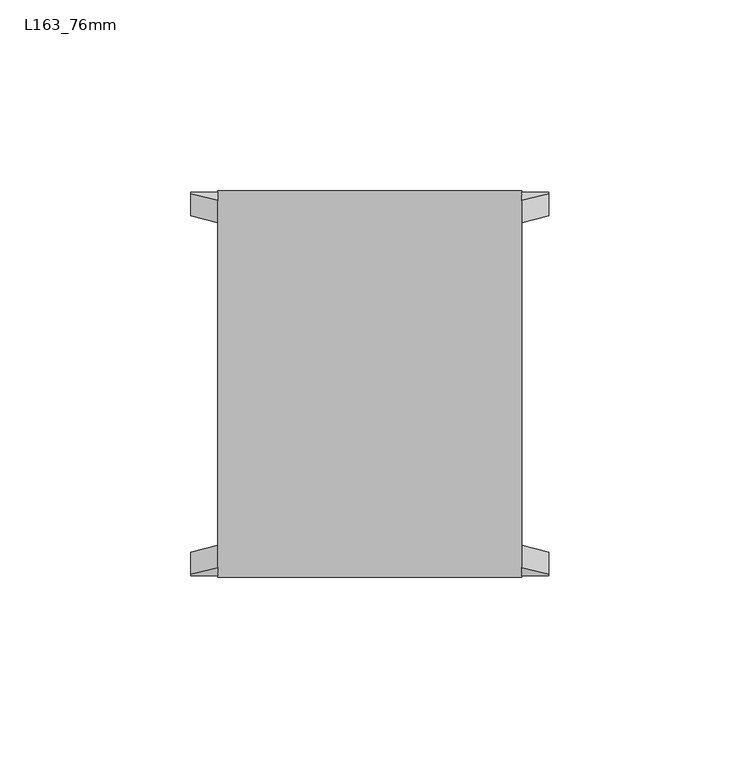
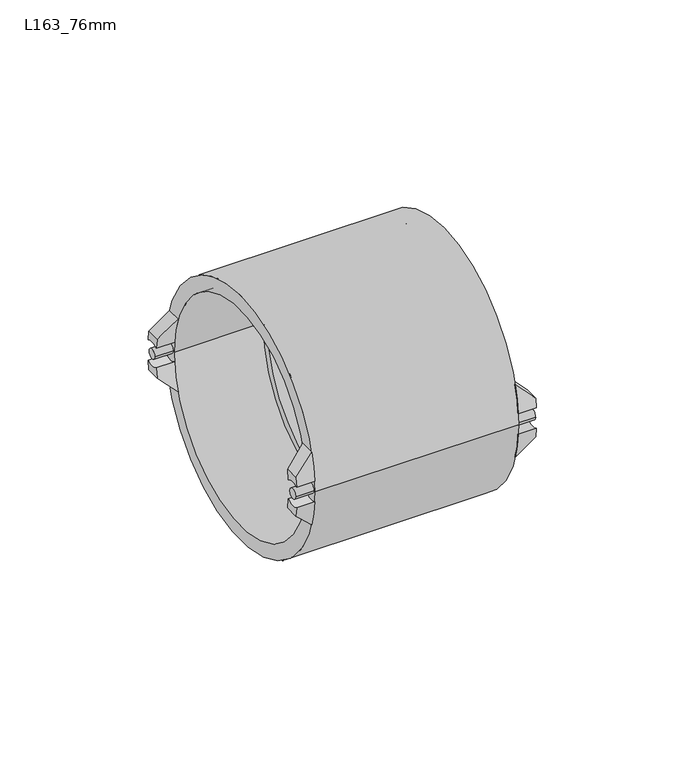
"""IFC4 building model written with IfcOpenShell, lengths in millimetres: pipe fitting geometry, Durapipe_PipeFitting_VulcatheneEnfusion_Coupling_L16 : L163_76mm."""

from ifc_helpers import new_model, si_unit, point, frame, frame_2d, origin, place, context, project, spatial, polyline, circle_curve, ellipse_curve, trimmed, segment, composite_curve, outline, extrude, source, transform, mapped, element, save
from ifc_brep_helpers import plane_surface, cylinder_surface, revolved_surface, advanced_brep


def l163_76mm_98f3493b(model_context):
    return source(origin(), model_context, "Body", "SolidModel", [
        advanced_brep(
        [(-46.9, -44.669937, 4.0148754), (-46.9, -50.269937, 4.25863), (-46.9, -49.8212696, 7.94), (-46.9, -44.1415779, 7.94), (-39.8, -48.1684804, 15.0), (-39.8, -50.269937, 4.25863), (-39.8, -44.669937, 4.0148754), (-39.8, -42.2672746, 15.0)],
        [
            (0, 1, circle_curve(frame((-46.9, -47.65, 0.0), z_axis=(1.0, 0.0, 0.0), x_axis=(0.0, 1.0, 0.0)), 5.0)),
            (1, 2, circle_curve(frame((-46.9, 0.0, 0.0), z_axis=(-1.0, 0.0, 0.0), x_axis=(0.0, 1.0, 0.0)), 50.45)),
            (2, 3),
            (3, 0, circle_curve(frame((-46.9, 0.0, 0.0), z_axis=(1.0, 0.0, 0.0), x_axis=(0.0, 1.0, 0.0)), 44.85)),
            (4, 5, circle_curve(frame((-39.8, 0.0, 0.0), z_axis=(1.0, 0.0, 0.0), x_axis=(0.0, 1.0, 0.0)), 50.45)),
            (5, 6, circle_curve(frame((-39.8, -47.65, 0.0), z_axis=(-1.0, 0.0, 0.0), x_axis=(0.0, 1.0, 0.0)), 5.0)),
            (6, 7, circle_curve(frame((-39.8, 0.0, 0.0), z_axis=(-1.0, 0.0, 0.0), x_axis=(0.0, 1.0, 0.0)), 44.85)),
            (7, 4),
            (6, 0),
            (3, 7, ellipse_curve(frame((-54.8849858, 0.0, 0.0), z_axis=(-0.7051064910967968, 0.0, 0.7091014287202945), x_axis=(0.7091014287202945, 0.0, 0.7051064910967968)), 63.6074133, 44.85)),
            (4, 2, ellipse_curve(frame((-54.8849858, 0.0, 0.0), z_axis=(0.7051064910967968, 0.0, -0.7091014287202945), x_axis=(-0.7091014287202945, 0.0, -0.7051064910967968)), 71.5494761, 50.45)),
            (1, 5),
        ],
        [
            plane_surface(frame((-46.9, -48.1684804, 15.0), z_axis=(-1.0, 0.0, 0.0), x_axis=(0.0, 1.0, 0.0))),
            plane_surface(frame((-39.8, -48.1684804, 15.0), z_axis=(1.0, 0.0, 0.0), x_axis=(0.0, -1.0, 0.0))),
            revolved_surface(polyline([(-9.780878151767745, 44.85, 0.0), (-99.98909344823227, 44.85, 0.0)]), (-39.8, 0.0, 0.0), (1.0, 0.0, 0.0)),
            cylinder_surface(frame((-39.8, 0.0, 0.0), z_axis=(-1.0, 0.0, 0.0), x_axis=(0.0, 1.0, 0.0)), 50.45),
            revolved_surface(polyline([(-46.9, -42.65, 0.0), (-39.8, -42.65, 0.0)]), (-39.8, -47.65, 0.0), (-1.0, 0.0, 0.0)),
            plane_surface(frame((-39.8, 50.45, 15.0), z_axis=(-0.7051064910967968, 0.0, 0.7091014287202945), x_axis=(0.0, -1.0, 0.0))),
        ],
        [
            (0, [[1, 2, 3, 4]]),
            (1, [[5, 6, 7, 8]]),
            (2, [[-7, 9, -4, 10]]),
            (3, [[-5, 11, -2, 12]]),
            (4, [[-1, -9, -6, -12]]),
            (5, [[-3, -11, -8, -10]]),
        ],
    ),
        advanced_brep(
        [(-46.9, -50.269937, -4.25863), (-46.9, -44.669937, -4.0148754), (-46.9, -44.1415779, -7.94), (-46.9, -49.8212696, -7.94), (-39.8, -50.269937, -4.25863), (-39.8, -48.1684804, -15.0), (-39.8, -42.2672746, -15.0), (-39.8, -44.669937, -4.0148754)],
        [
            (0, 1, circle_curve(frame((-46.9, -47.65, 0.0), z_axis=(1.0, 0.0, 0.0), x_axis=(0.0, 1.0, 0.0)), 5.0)),
            (1, 2, circle_curve(frame((-46.9, 0.0, 0.0), z_axis=(1.0, 0.0, 0.0), x_axis=(0.0, 1.0, 0.0)), 44.85)),
            (2, 3),
            (3, 0, circle_curve(frame((-46.9, 0.0, 0.0), z_axis=(-1.0, 0.0, 0.0), x_axis=(0.0, 1.0, 0.0)), 50.45)),
            (4, 5, circle_curve(frame((-39.8, 0.0, 0.0), z_axis=(1.0, 0.0, 0.0), x_axis=(0.0, 1.0, 0.0)), 50.45)),
            (5, 6),
            (6, 7, circle_curve(frame((-39.8, 0.0, 0.0), z_axis=(-1.0, 0.0, 0.0), x_axis=(0.0, 1.0, 0.0)), 44.85)),
            (7, 4, circle_curve(frame((-39.8, -47.65, 0.0), z_axis=(-1.0, 0.0, 0.0), x_axis=(0.0, 1.0, 0.0)), 5.0)),
            (6, 2, ellipse_curve(frame((-54.8849858, 0.0, 0.0), z_axis=(-0.7051064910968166, 0.0, -0.7091014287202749), x_axis=(0.7091014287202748, 0.0, -0.7051064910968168)), 63.6074133, 44.85)),
            (1, 7),
            (4, 0),
            (3, 5, ellipse_curve(frame((-54.8849858, 0.0, 0.0), z_axis=(0.7051064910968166, 0.0, 0.7091014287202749), x_axis=(-0.7091014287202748, 0.0, 0.7051064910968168)), 71.5494761, 50.45)),
        ],
        [
            plane_surface(frame((-46.9, -48.1684804, 15.0), z_axis=(-1.0, 0.0, 0.0), x_axis=(0.0, 1.0, 0.0))),
            plane_surface(frame((-39.8, -48.1684804, 15.0), z_axis=(1.0, 0.0, 0.0), x_axis=(0.0, -1.0, 0.0))),
            revolved_surface(polyline([(-9.780878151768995, 44.85, 0.0), (-99.98909344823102, 44.85, 0.0)]), (-39.8, 0.0, 0.0), (1.0, 0.0, 0.0)),
            cylinder_surface(frame((-39.8, 0.0, 0.0), z_axis=(-1.0, 0.0, 0.0), x_axis=(0.0, 1.0, 0.0)), 50.45),
            revolved_surface(polyline([(-46.9, -42.65, 0.0), (-39.8, -42.65, 0.0)]), (-39.8, -47.65, 0.0), (-1.0, 0.0, 0.0)),
            plane_surface(frame((-46.9, 50.45, -7.94), z_axis=(-0.7051064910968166, 0.0, -0.7091014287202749), x_axis=(0.0, -1.0, 0.0))),
        ],
        [
            (0, [[1, 2, 3, 4]]),
            (1, [[5, 6, 7, 8]]),
            (2, [[-7, 9, -2, 10]]),
            (3, [[-5, 11, -4, 12]]),
            (4, [[-1, -11, -8, -10]]),
            (5, [[-3, -9, -6, -12]]),
        ],
    ),
        advanced_brep(
        [(-46.9, 50.269937, 4.25863), (-46.9, 44.669937, 4.0148754), (-46.9, 44.1415779, 7.94), (-46.9, 49.8212696, 7.94), (-39.8, 50.269937, 4.25863), (-39.8, 48.1684804, 15.0), (-39.8, 42.2672746, 15.0), (-39.8, 44.669937, 4.0148754)],
        [
            (0, 1, circle_curve(frame((-46.9, 47.65, 0.0), z_axis=(1.0, 0.0, 0.0), x_axis=(0.0, 1.0, 0.0)), 5.0)),
            (1, 2, circle_curve(frame((-46.9, 0.0, 0.0), z_axis=(1.0, 0.0, 0.0), x_axis=(0.0, 1.0, 0.0)), 44.85)),
            (2, 3),
            (3, 0, circle_curve(frame((-46.9, 0.0, 0.0), z_axis=(-1.0, 0.0, 0.0), x_axis=(0.0, 1.0, 0.0)), 50.45)),
            (4, 5, circle_curve(frame((-39.8, 0.0, 0.0), z_axis=(1.0, 0.0, 0.0), x_axis=(0.0, 1.0, 0.0)), 50.45)),
            (5, 6),
            (6, 7, circle_curve(frame((-39.8, 0.0, 0.0), z_axis=(-1.0, 0.0, 0.0), x_axis=(0.0, 1.0, 0.0)), 44.85)),
            (7, 4, circle_curve(frame((-39.8, 47.65, 0.0), z_axis=(-1.0, 0.0, 0.0), x_axis=(0.0, 1.0, 0.0)), 5.0)),
            (6, 2, ellipse_curve(frame((-54.8849858, 0.0, 0.0), z_axis=(-0.7051064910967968, 0.0, 0.7091014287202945), x_axis=(0.7091014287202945, 0.0, 0.7051064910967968)), 63.6074133, 44.85)),
            (1, 7),
            (4, 0),
            (3, 5, ellipse_curve(frame((-54.8849858, 0.0, 0.0), z_axis=(0.7051064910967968, 0.0, -0.7091014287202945), x_axis=(-0.7091014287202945, 0.0, -0.7051064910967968)), 71.5494761, 50.45)),
        ],
        [
            plane_surface(frame((-46.9, -48.1684804, 15.0), z_axis=(-1.0, 0.0, 0.0), x_axis=(0.0, 1.0, 0.0))),
            plane_surface(frame((-39.8, -48.1684804, 15.0), z_axis=(1.0, 0.0, 0.0), x_axis=(0.0, -1.0, 0.0))),
            revolved_surface(polyline([(-9.780878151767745, 44.85, 0.0), (-99.98909344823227, 44.85, 0.0)]), (-39.8, 0.0, 0.0), (1.0, 0.0, 0.0)),
            cylinder_surface(frame((-39.8, 0.0, 0.0), z_axis=(-1.0, 0.0, 0.0), x_axis=(0.0, 1.0, 0.0)), 50.45),
            revolved_surface(polyline([(-46.9, 52.65, 0.0), (-39.8, 52.65, 0.0)]), (-39.8, 47.65, 0.0), (-1.0, 0.0, 0.0)),
            plane_surface(frame((-39.8, 50.45, 15.0), z_axis=(-0.7051064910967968, 0.0, 0.7091014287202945), x_axis=(0.0, -1.0, 0.0))),
        ],
        [
            (0, [[1, 2, 3, 4]]),
            (1, [[5, 6, 7, 8]]),
            (2, [[-7, 9, -2, 10]]),
            (3, [[-5, 11, -4, 12]]),
            (4, [[-1, -11, -8, -10]]),
            (5, [[-3, -9, -6, -12]]),
        ],
    ),
        advanced_brep(
        [(-46.9, 44.669937, -4.0148754), (-46.9, 50.269937, -4.25863), (-46.9, 49.8212696, -7.94), (-46.9, 44.1415779, -7.94), (-39.8, 48.1684804, -15.0), (-39.8, 50.269937, -4.25863), (-39.8, 44.669937, -4.0148754), (-39.8, 42.2672746, -15.0)],
        [
            (0, 1, circle_curve(frame((-46.9, 47.65, 0.0), z_axis=(1.0, 0.0, 0.0), x_axis=(0.0, 1.0, 0.0)), 5.0)),
            (1, 2, circle_curve(frame((-46.9, 0.0, 0.0), z_axis=(-1.0, 0.0, 0.0), x_axis=(0.0, 1.0, 0.0)), 50.45)),
            (2, 3),
            (3, 0, circle_curve(frame((-46.9, 0.0, 0.0), z_axis=(1.0, 0.0, 0.0), x_axis=(0.0, 1.0, 0.0)), 44.85)),
            (4, 5, circle_curve(frame((-39.8, 0.0, 0.0), z_axis=(1.0, 0.0, 0.0), x_axis=(0.0, 1.0, 0.0)), 50.45)),
            (5, 6, circle_curve(frame((-39.8, 47.65, 0.0), z_axis=(-1.0, 0.0, 0.0), x_axis=(0.0, 1.0, 0.0)), 5.0)),
            (6, 7, circle_curve(frame((-39.8, 0.0, 0.0), z_axis=(-1.0, 0.0, 0.0), x_axis=(0.0, 1.0, 0.0)), 44.85)),
            (7, 4),
            (6, 0),
            (3, 7, ellipse_curve(frame((-54.8849858, 0.0, 0.0), z_axis=(-0.7051064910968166, 0.0, -0.7091014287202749), x_axis=(0.7091014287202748, 0.0, -0.7051064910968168)), 63.6074133, 44.85)),
            (4, 2, ellipse_curve(frame((-54.8849858, 0.0, 0.0), z_axis=(0.7051064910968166, 0.0, 0.7091014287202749), x_axis=(-0.7091014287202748, 0.0, 0.7051064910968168)), 71.5494761, 50.45)),
            (1, 5),
        ],
        [
            plane_surface(frame((-46.9, -48.1684804, 15.0), z_axis=(-1.0, 0.0, 0.0), x_axis=(0.0, 1.0, 0.0))),
            plane_surface(frame((-39.8, -48.1684804, 15.0), z_axis=(1.0, 0.0, 0.0), x_axis=(0.0, -1.0, 0.0))),
            revolved_surface(polyline([(-9.780878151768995, 44.85, 0.0), (-99.98909344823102, 44.85, 0.0)]), (-39.8, 0.0, 0.0), (1.0, 0.0, 0.0)),
            cylinder_surface(frame((-39.8, 0.0, 0.0), z_axis=(-1.0, 0.0, 0.0), x_axis=(0.0, 1.0, 0.0)), 50.45),
            revolved_surface(polyline([(-46.9, 52.65, 0.0), (-39.8, 52.65, 0.0)]), (-39.8, 47.65, 0.0), (-1.0, 0.0, 0.0)),
            plane_surface(frame((-46.9, 50.45, -7.94), z_axis=(-0.7051064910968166, 0.0, -0.7091014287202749), x_axis=(0.0, -1.0, 0.0))),
        ],
        [
            (0, [[1, 2, 3, 4]]),
            (1, [[5, 6, 7, 8]]),
            (2, [[-7, 9, -4, 10]]),
            (3, [[-5, 11, -2, 12]]),
            (4, [[-1, -9, -6, -12]]),
            (5, [[-3, -11, -8, -10]]),
        ],
    ),
        extrude(outline(composite_curve([segment(trimmed(circle_curve(frame_2d((-47.65, 0.0)), 2.0), [point((-49.65, 0.0))], [point((-45.65, 0.0))], False, "CARTESIAN"), True, "CONTINUOUS"), segment(trimmed(circle_curve(frame_2d((-47.65, 0.0)), 2.0), [point((-45.65, 0.0))], [point((-49.65, 0.0))], False, "CARTESIAN"), True, "CONTINUOUS")], self_intersect=False)), frame((-46.9, 0.0, 0.0), z_axis=(1.0, 0.0, 0.0), x_axis=(0.0, 1.0, 0.0)), (0.0, 0.0, 1.0), 7.1),
        extrude(outline(composite_curve([segment(trimmed(circle_curve(frame_2d((47.65, 0.0)), 2.0), [point((45.65, 0.0))], [point((49.65, 0.0))], False, "CARTESIAN"), True, "CONTINUOUS"), segment(trimmed(circle_curve(frame_2d((47.65, 0.0)), 2.0), [point((49.65, 0.0))], [point((45.65, 0.0))], False, "CARTESIAN"), True, "CONTINUOUS")], self_intersect=False)), frame((-46.9, 0.0, 0.0), z_axis=(1.0, 0.0, 0.0), x_axis=(0.0, 1.0, 0.0)), (0.0, 0.0, 1.0), 7.1),
        advanced_brep(
        [(46.9, -44.669937, -4.0148754), (46.9, -50.269937, -4.25863), (46.9, -49.8212696, -7.94), (46.9, -44.1415779, -7.94), (39.8, -48.1684804, -15.0), (39.8, -50.269937, -4.25863), (39.8, -44.669937, -4.0148754), (39.8, -42.2672746, -15.0)],
        [
            (0, 1, circle_curve(frame((46.9, -47.65, 0.0), z_axis=(-1.0, 0.0, 0.0), x_axis=(0.0, 1.0, 0.0)), 5.0)),
            (1, 2, circle_curve(frame((46.9, 0.0, 0.0), z_axis=(1.0, 0.0, 0.0), x_axis=(0.0, 1.0, 0.0)), 50.45)),
            (2, 3),
            (3, 0, circle_curve(frame((46.9, 0.0, 0.0), z_axis=(-1.0, 0.0, 0.0), x_axis=(0.0, 1.0, 0.0)), 44.85)),
            (4, 5, circle_curve(frame((39.8, 0.0, 0.0), z_axis=(-1.0, 0.0, 0.0), x_axis=(0.0, 1.0, 0.0)), 50.45)),
            (5, 6, circle_curve(frame((39.8, -47.65, 0.0), z_axis=(1.0, 0.0, 0.0), x_axis=(0.0, 1.0, 0.0)), 5.0)),
            (6, 7, circle_curve(frame((39.8, 0.0, 0.0), z_axis=(1.0, 0.0, 0.0), x_axis=(0.0, 1.0, 0.0)), 44.85)),
            (7, 4),
            (6, 0),
            (3, 7, ellipse_curve(frame((54.8849858, 0.0, 0.0), z_axis=(0.7051064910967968, 0.0, -0.7091014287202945), x_axis=(-0.7091014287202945, 0.0, -0.7051064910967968)), 63.6074133, 44.85)),
            (4, 2, ellipse_curve(frame((54.8849858, 0.0, 0.0), z_axis=(-0.7051064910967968, 0.0, 0.7091014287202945), x_axis=(0.7091014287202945, 0.0, 0.7051064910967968)), 71.5494761, 50.45)),
            (1, 5),
        ],
        [
            plane_surface(frame((46.9, -48.1684804, -15.0), z_axis=(1.0, 0.0, 0.0), x_axis=(0.0, 1.0, 0.0))),
            plane_surface(frame((39.8, -48.1684804, -15.0), z_axis=(-1.0, 0.0, 0.0), x_axis=(0.0, -1.0, 0.0))),
            revolved_surface(polyline([(9.780878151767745, 44.85, 0.0), (99.98909344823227, 44.85, 0.0)]), (39.8, 0.0, 0.0), (-1.0, 0.0, 0.0)),
            cylinder_surface(frame((39.8, 0.0, 0.0), z_axis=(1.0, 0.0, 0.0), x_axis=(0.0, 1.0, 0.0)), 50.45),
            revolved_surface(polyline([(46.9, -42.65, 0.0), (39.8, -42.65, 0.0)]), (39.8, -47.65, 0.0), (1.0, 0.0, 0.0)),
            plane_surface(frame((39.8, 50.45, -15.0), z_axis=(0.7051064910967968, 0.0, -0.7091014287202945), x_axis=(0.0, -1.0, 0.0))),
        ],
        [
            (0, [[1, 2, 3, 4]]),
            (1, [[5, 6, 7, 8]]),
            (2, [[-7, 9, -4, 10]]),
            (3, [[-5, 11, -2, 12]]),
            (4, [[-1, -9, -6, -12]]),
            (5, [[-3, -11, -8, -10]]),
        ],
    ),
        advanced_brep(
        [(46.9, -50.269937, 4.25863), (46.9, -44.669937, 4.0148754), (46.9, -44.1415779, 7.94), (46.9, -49.8212696, 7.94), (39.8, -50.269937, 4.25863), (39.8, -48.1684804, 15.0), (39.8, -42.2672746, 15.0), (39.8, -44.669937, 4.0148754)],
        [
            (0, 1, circle_curve(frame((46.9, -47.65, 0.0), z_axis=(-1.0, 0.0, 0.0), x_axis=(0.0, 1.0, 0.0)), 5.0)),
            (1, 2, circle_curve(frame((46.9, 0.0, 0.0), z_axis=(-1.0, 0.0, 0.0), x_axis=(0.0, 1.0, 0.0)), 44.85)),
            (2, 3),
            (3, 0, circle_curve(frame((46.9, 0.0, 0.0), z_axis=(1.0, 0.0, 0.0), x_axis=(0.0, 1.0, 0.0)), 50.45)),
            (4, 5, circle_curve(frame((39.8, 0.0, 0.0), z_axis=(-1.0, 0.0, 0.0), x_axis=(0.0, 1.0, 0.0)), 50.45)),
            (5, 6),
            (6, 7, circle_curve(frame((39.8, 0.0, 0.0), z_axis=(1.0, 0.0, 0.0), x_axis=(0.0, 1.0, 0.0)), 44.85)),
            (7, 4, circle_curve(frame((39.8, -47.65, 0.0), z_axis=(1.0, 0.0, 0.0), x_axis=(0.0, 1.0, 0.0)), 5.0)),
            (6, 2, ellipse_curve(frame((54.8849858, 0.0, 0.0), z_axis=(0.7051064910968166, 0.0, 0.7091014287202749), x_axis=(-0.7091014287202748, 0.0, 0.7051064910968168)), 63.6074133, 44.85)),
            (1, 7),
            (4, 0),
            (3, 5, ellipse_curve(frame((54.8849858, 0.0, 0.0), z_axis=(-0.7051064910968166, 0.0, -0.7091014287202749), x_axis=(0.7091014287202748, 0.0, -0.7051064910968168)), 71.5494761, 50.45)),
        ],
        [
            plane_surface(frame((46.9, -48.1684804, -15.0), z_axis=(1.0, 0.0, 0.0), x_axis=(0.0, 1.0, 0.0))),
            plane_surface(frame((39.8, -48.1684804, -15.0), z_axis=(-1.0, 0.0, 0.0), x_axis=(0.0, -1.0, 0.0))),
            revolved_surface(polyline([(9.780878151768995, 44.85, 0.0), (99.98909344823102, 44.85, 0.0)]), (39.8, 0.0, 0.0), (-1.0, 0.0, 0.0)),
            cylinder_surface(frame((39.8, 0.0, 0.0), z_axis=(1.0, 0.0, 0.0), x_axis=(0.0, 1.0, 0.0)), 50.45),
            revolved_surface(polyline([(46.9, -42.65, 0.0), (39.8, -42.65, 0.0)]), (39.8, -47.65, 0.0), (1.0, 0.0, 0.0)),
            plane_surface(frame((46.9, 50.45, 7.94), z_axis=(0.7051064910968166, 0.0, 0.7091014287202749), x_axis=(0.0, -1.0, 0.0))),
        ],
        [
            (0, [[1, 2, 3, 4]]),
            (1, [[5, 6, 7, 8]]),
            (2, [[-7, 9, -2, 10]]),
            (3, [[-5, 11, -4, 12]]),
            (4, [[-1, -11, -8, -10]]),
            (5, [[-3, -9, -6, -12]]),
        ],
    ),
        advanced_brep(
        [(46.9, 50.269937, -4.25863), (46.9, 44.669937, -4.0148754), (46.9, 44.1415779, -7.94), (46.9, 49.8212696, -7.94), (39.8, 50.269937, -4.25863), (39.8, 48.1684804, -15.0), (39.8, 42.2672746, -15.0), (39.8, 44.669937, -4.0148754)],
        [
            (0, 1, circle_curve(frame((46.9, 47.65, 0.0), z_axis=(-1.0, 0.0, 0.0), x_axis=(0.0, 1.0, 0.0)), 5.0)),
            (1, 2, circle_curve(frame((46.9, 0.0, 0.0), z_axis=(-1.0, 0.0, 0.0), x_axis=(0.0, 1.0, 0.0)), 44.85)),
            (2, 3),
            (3, 0, circle_curve(frame((46.9, 0.0, 0.0), z_axis=(1.0, 0.0, 0.0), x_axis=(0.0, 1.0, 0.0)), 50.45)),
            (4, 5, circle_curve(frame((39.8, 0.0, 0.0), z_axis=(-1.0, 0.0, 0.0), x_axis=(0.0, 1.0, 0.0)), 50.45)),
            (5, 6),
            (6, 7, circle_curve(frame((39.8, 0.0, 0.0), z_axis=(1.0, 0.0, 0.0), x_axis=(0.0, 1.0, 0.0)), 44.85)),
            (7, 4, circle_curve(frame((39.8, 47.65, 0.0), z_axis=(1.0, 0.0, 0.0), x_axis=(0.0, 1.0, 0.0)), 5.0)),
            (6, 2, ellipse_curve(frame((54.8849858, 0.0, 0.0), z_axis=(0.7051064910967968, 0.0, -0.7091014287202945), x_axis=(-0.7091014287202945, 0.0, -0.7051064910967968)), 63.6074133, 44.85)),
            (1, 7),
            (4, 0),
            (3, 5, ellipse_curve(frame((54.8849858, 0.0, 0.0), z_axis=(-0.7051064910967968, 0.0, 0.7091014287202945), x_axis=(0.7091014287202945, 0.0, 0.7051064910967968)), 71.5494761, 50.45)),
        ],
        [
            plane_surface(frame((46.9, -48.1684804, -15.0), z_axis=(1.0, 0.0, 0.0), x_axis=(0.0, 1.0, 0.0))),
            plane_surface(frame((39.8, -48.1684804, -15.0), z_axis=(-1.0, 0.0, 0.0), x_axis=(0.0, -1.0, 0.0))),
            revolved_surface(polyline([(9.780878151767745, 44.85, 0.0), (99.98909344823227, 44.85, 0.0)]), (39.8, 0.0, 0.0), (-1.0, 0.0, 0.0)),
            cylinder_surface(frame((39.8, 0.0, 0.0), z_axis=(1.0, 0.0, 0.0), x_axis=(0.0, 1.0, 0.0)), 50.45),
            revolved_surface(polyline([(46.9, 52.65, 0.0), (39.8, 52.65, 0.0)]), (39.8, 47.65, 0.0), (1.0, 0.0, 0.0)),
            plane_surface(frame((39.8, 50.45, -15.0), z_axis=(0.7051064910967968, 0.0, -0.7091014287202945), x_axis=(0.0, -1.0, 0.0))),
        ],
        [
            (0, [[1, 2, 3, 4]]),
            (1, [[5, 6, 7, 8]]),
            (2, [[-7, 9, -2, 10]]),
            (3, [[-5, 11, -4, 12]]),
            (4, [[-1, -11, -8, -10]]),
            (5, [[-3, -9, -6, -12]]),
        ],
    ),
        advanced_brep(
        [(46.9, 44.669937, 4.0148754), (46.9, 50.269937, 4.25863), (46.9, 49.8212696, 7.94), (46.9, 44.1415779, 7.94), (39.8, 48.1684804, 15.0), (39.8, 50.269937, 4.25863), (39.8, 44.669937, 4.0148754), (39.8, 42.2672746, 15.0)],
        [
            (0, 1, circle_curve(frame((46.9, 47.65, 0.0), z_axis=(-1.0, 0.0, 0.0), x_axis=(0.0, 1.0, 0.0)), 5.0)),
            (1, 2, circle_curve(frame((46.9, 0.0, 0.0), z_axis=(1.0, 0.0, 0.0), x_axis=(0.0, 1.0, 0.0)), 50.45)),
            (2, 3),
            (3, 0, circle_curve(frame((46.9, 0.0, 0.0), z_axis=(-1.0, 0.0, 0.0), x_axis=(0.0, 1.0, 0.0)), 44.85)),
            (4, 5, circle_curve(frame((39.8, 0.0, 0.0), z_axis=(-1.0, 0.0, 0.0), x_axis=(0.0, 1.0, 0.0)), 50.45)),
            (5, 6, circle_curve(frame((39.8, 47.65, 0.0), z_axis=(1.0, 0.0, 0.0), x_axis=(0.0, 1.0, 0.0)), 5.0)),
            (6, 7, circle_curve(frame((39.8, 0.0, 0.0), z_axis=(1.0, 0.0, 0.0), x_axis=(0.0, 1.0, 0.0)), 44.85)),
            (7, 4),
            (6, 0),
            (3, 7, ellipse_curve(frame((54.8849858, 0.0, 0.0), z_axis=(0.7051064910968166, 0.0, 0.7091014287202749), x_axis=(-0.7091014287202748, 0.0, 0.7051064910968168)), 63.6074133, 44.85)),
            (4, 2, ellipse_curve(frame((54.8849858, 0.0, 0.0), z_axis=(-0.7051064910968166, 0.0, -0.7091014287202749), x_axis=(0.7091014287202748, 0.0, -0.7051064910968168)), 71.5494761, 50.45)),
            (1, 5),
        ],
        [
            plane_surface(frame((46.9, -48.1684804, -15.0), z_axis=(1.0, 0.0, 0.0), x_axis=(0.0, 1.0, 0.0))),
            plane_surface(frame((39.8, -48.1684804, -15.0), z_axis=(-1.0, 0.0, 0.0), x_axis=(0.0, -1.0, 0.0))),
            revolved_surface(polyline([(9.780878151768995, 44.85, 0.0), (99.98909344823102, 44.85, 0.0)]), (39.8, 0.0, 0.0), (-1.0, 0.0, 0.0)),
            cylinder_surface(frame((39.8, 0.0, 0.0), z_axis=(1.0, 0.0, 0.0), x_axis=(0.0, 1.0, 0.0)), 50.45),
            revolved_surface(polyline([(46.9, 52.65, 0.0), (39.8, 52.65, 0.0)]), (39.8, 47.65, 0.0), (1.0, 0.0, 0.0)),
            plane_surface(frame((46.9, 50.45, 7.94), z_axis=(0.7051064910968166, 0.0, 0.7091014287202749), x_axis=(0.0, -1.0, 0.0))),
        ],
        [
            (0, [[1, 2, 3, 4]]),
            (1, [[5, 6, 7, 8]]),
            (2, [[-7, 9, -4, 10]]),
            (3, [[-5, 11, -2, 12]]),
            (4, [[-1, -9, -6, -12]]),
            (5, [[-3, -11, -8, -10]]),
        ],
    ),
        extrude(outline(composite_curve([segment(trimmed(circle_curve(frame_2d((-47.65, 0.0)), 2.0), [point((-49.65, 0.0))], [point((-45.65, 0.0))], False, "CARTESIAN"), True, "CONTINUOUS"), segment(trimmed(circle_curve(frame_2d((-47.65, 0.0)), 2.0), [point((-45.65, 0.0))], [point((-49.65, 0.0))], False, "CARTESIAN"), True, "CONTINUOUS")], self_intersect=False)), frame((39.8, 0.0, 0.0), z_axis=(1.0, 0.0, 0.0), x_axis=(0.0, 1.0, 0.0)), (0.0, 0.0, 1.0), 7.1),
        extrude(outline(composite_curve([segment(trimmed(circle_curve(frame_2d((47.65, 0.0)), 2.0), [point((45.65, 0.0))], [point((49.65, 0.0))], False, "CARTESIAN"), True, "CONTINUOUS"), segment(trimmed(circle_curve(frame_2d((47.65, 0.0)), 2.0), [point((49.65, 0.0))], [point((45.65, 0.0))], False, "CARTESIAN"), True, "CONTINUOUS")], self_intersect=False)), frame((39.8, 0.0, 0.0), z_axis=(1.0, 0.0, 0.0), x_axis=(0.0, 1.0, 0.0)), (0.0, 0.0, 1.0), 7.1),
        advanced_brep(
        [(-5.35, -44.7, 0.0), (-5.35, 44.7, 0.0), (-39.8, 44.7, 0.0), (-39.8, -44.7, 0.0), (-5.35, -41.6, 0.0), (-5.35, 41.6, 0.0), (5.35, -41.6, 0.0), (5.35, 41.6, 0.0), (5.35, -44.7, 0.0), (5.35, 44.7, 0.0), (39.8, -44.7, 0.0), (39.8, 44.7, 0.0), (39.8, -50.6, 0.0), (39.8, 50.6, 0.0), (-39.8, -50.6, 0.0), (-39.8, 50.6, 0.0)],
        [
            (0, 1, circle_curve(frame((-5.35, 0.0, 0.0), z_axis=(1.0, 0.0, 0.0), x_axis=(0.0, 1.0, 0.0)), 44.7)),
            (1, 2),
            (2, 3, circle_curve(frame((-39.8, 0.0, 0.0), z_axis=(-1.0, 0.0, 0.0), x_axis=(0.0, 1.0, 0.0)), 44.7)),
            (3, 0),
            (1, 0, circle_curve(frame((-5.35, 0.0, 0.0), z_axis=(1.0, 0.0, 0.0), x_axis=(0.0, 1.0, 0.0)), 44.7)),
            (3, 2, circle_curve(frame((-39.8, 0.0, 0.0), z_axis=(-1.0, 0.0, 0.0), x_axis=(0.0, 1.0, 0.0)), 44.7)),
            (4, 5, circle_curve(frame((-5.35, 0.0, 0.0), z_axis=(1.0, 0.0, 0.0), x_axis=(0.0, 1.0, 0.0)), 41.6)),
            (5, 1),
            (0, 4),
            (5, 4, circle_curve(frame((-5.35, 0.0, 0.0), z_axis=(1.0, 0.0, 0.0), x_axis=(0.0, 1.0, 0.0)), 41.6)),
            (6, 7, circle_curve(frame((5.35, 0.0, 0.0), z_axis=(1.0, 0.0, 0.0), x_axis=(0.0, 1.0, 0.0)), 41.6)),
            (7, 5),
            (4, 6),
            (7, 6, circle_curve(frame((5.35, 0.0, 0.0), z_axis=(1.0, 0.0, 0.0), x_axis=(0.0, 1.0, 0.0)), 41.6)),
            (8, 9, circle_curve(frame((5.35, 0.0, 0.0), z_axis=(1.0, 0.0, 0.0), x_axis=(0.0, 1.0, 0.0)), 44.7)),
            (9, 7),
            (6, 8),
            (9, 8, circle_curve(frame((5.35, 0.0, 0.0), z_axis=(1.0, 0.0, 0.0), x_axis=(0.0, 1.0, 0.0)), 44.7)),
            (10, 11, circle_curve(frame((39.8, 0.0, 0.0), z_axis=(1.0, 0.0, 0.0), x_axis=(0.0, 1.0, 0.0)), 44.7)),
            (11, 9),
            (8, 10),
            (11, 10, circle_curve(frame((39.8, 0.0, 0.0), z_axis=(1.0, 0.0, 0.0), x_axis=(0.0, 1.0, 0.0)), 44.7)),
            (12, 13, circle_curve(frame((39.8, 0.0, 0.0), z_axis=(1.0, 0.0, 0.0), x_axis=(0.0, 1.0, 0.0)), 50.6)),
            (13, 11),
            (10, 12),
            (13, 12, circle_curve(frame((39.8, 0.0, 0.0), z_axis=(1.0, 0.0, 0.0), x_axis=(0.0, 1.0, 0.0)), 50.6)),
            (14, 15, circle_curve(frame((-39.8, 0.0, 0.0), z_axis=(1.0, 0.0, 0.0), x_axis=(0.0, 1.0, 0.0)), 50.6)),
            (15, 13),
            (12, 14),
            (15, 14, circle_curve(frame((-39.8, 0.0, 0.0), z_axis=(1.0, 0.0, 0.0), x_axis=(0.0, 1.0, 0.0)), 50.6)),
            (2, 15),
            (14, 3),
        ],
        [
            revolved_surface(polyline([(-39.799999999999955, 44.7, 0.0), (-5.349999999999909, 44.7, 0.0)]), (1589.0396958, 0.0, 0.0), (-1.0, 0.0, 0.0)),
            plane_surface(frame((-5.35, 0.0, 0.0), z_axis=(-1.0, 0.0, 0.0), x_axis=(0.0, 1.0, 0.0))),
            revolved_surface(polyline([(-5.349999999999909, 41.6, 0.0), (5.349999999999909, 41.6, 0.0)]), (1589.0396958, 0.0, 0.0), (-1.0, 0.0, 0.0)),
            plane_surface(frame((5.35, 0.0, 0.0), z_axis=(1.0, 0.0, 0.0), x_axis=(0.0, 1.0, 0.0))),
            revolved_surface(polyline([(5.349999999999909, 44.7, 0.0), (39.799999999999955, 44.7, 0.0)]), (1589.0396958, 0.0, 0.0), (-1.0, 0.0, 0.0)),
            plane_surface(frame((39.8, 0.0, 0.0), z_axis=(1.0, 0.0, 0.0), x_axis=(0.0, 1.0, 0.0))),
            cylinder_surface(frame((1589.0396958, 0.0, 0.0), z_axis=(-1.0, 0.0, 0.0), x_axis=(0.0, 1.0, 0.0)), 50.6),
            plane_surface(frame((-39.8, 0.0, 0.0), z_axis=(-1.0, 0.0, 0.0), x_axis=(0.0, 1.0, 0.0))),
        ],
        [
            (0, [[1, 2, 3, 4]]),
            (0, [[5, -4, 6, -2]]),
            (1, [[7, 8, -1, 9]]),
            (1, [[10, -9, -5, -8]]),
            (2, [[11, 12, -7, 13]]),
            (2, [[14, -13, -10, -12]]),
            (3, [[15, 16, -11, 17]]),
            (3, [[18, -17, -14, -16]]),
            (4, [[19, 20, -15, 21]]),
            (4, [[22, -21, -18, -20]]),
            (5, [[23, 24, -19, 25]]),
            (5, [[26, -25, -22, -24]]),
            (6, [[27, 28, -23, 29]]),
            (6, [[30, -29, -26, -28]]),
            (7, [[-3, 31, -27, 32]]),
            (7, [[-6, -32, -30, -31]]),
        ],
    ),
    ])


if __name__ == "__main__":
    model = new_model("IFC4")
    model_context = context("Model", 3, world=origin())
    ifc_project = project(units=[si_unit("LENGTHUNIT", "METRE", prefix="MILLI")], contexts=[model_context])
    site = spatial("IfcSite", under=ifc_project)
    building = spatial("IfcBuilding", under=site)
    placement = place(None, origin())
    l163_76mm_shape = l163_76mm_98f3493b(model_context)
    element("IfcPipeFitting", 1, ObjectType="Durapipe_PipeFitting_VulcatheneEnfusion_Coupling_L16 : L163_76mm", at=placement, inside=building, context=model_context, shape_type="MappedRepresentation", body=[
        mapped(l163_76mm_shape, transform((0.0, 0.0, 0.0), x_axis=(1.0, 0.0, 0.0), y_axis=(0.0, 1.0, 0.0), z_axis=(0.0, 0.0, 1.0))),
    ])
    save(model, "model.ifc")
